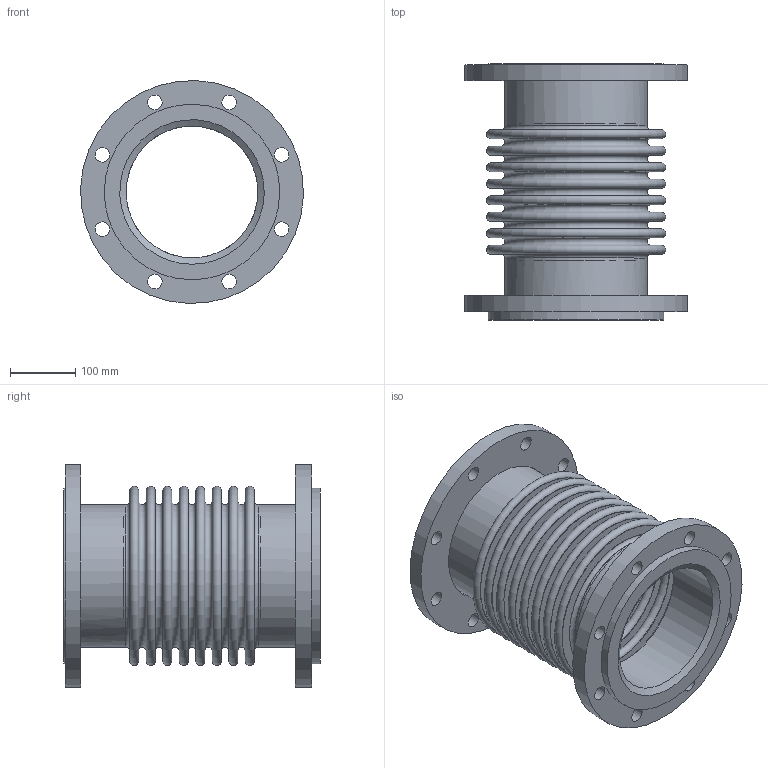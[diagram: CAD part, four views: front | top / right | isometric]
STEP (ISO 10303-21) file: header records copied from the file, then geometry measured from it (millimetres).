
FILE_DESCRIPTION(/* description */ (''),/* implementation_level */ '2;1');
FILE_NAME(/* name */ 'C:\001_Work\Designs\EFL50-ASA150LB\EFL50-8x15.50 (ASA150LB).stp',/* time_stamp */ '2016-05-10T09:07:16-04:00',/* author */ ('rramoutar'),/* organization */ ('Mason Industries Inc.'),/* preprocessor_version */ 'ST-DEVELOPER v15.6',/* originating_system */ 'Autodesk Inventor 2015',/* authorisation */ '');
FILE_SCHEMA (('CONFIG_CONTROL_DESIGN'));
Length unit declared in the file: inch
Products named in the file (1): EFL50-8x15.50
Bounding box: 342.57 x 393.7 x 342.57 mm (x, y, z)
Volume: 4166373.2 mm3; surface area: 1486524.2 mm2
Topology: 1 solids, 1 shells, 109 faces, 209 edges, 143 vertices
Faces by surface type: plane 43, torus 34, cylinder 29, cone 3
Full cylindrical faces by diameter (mm): 22.225 x16, 202.692 x2, 217.17 x2, 219.202 x2, 222.25 x3, 269.875 x2, 342.9 x2
Entity records: 2589 total; most frequent: DIRECTION 470, CARTESIAN_POINT 360, EDGE_LOOP 250, ORIENTED_EDGE 250, AXIS2_PLACEMENT_3D 235, FACE_BOUND 141, CIRCLE 125, VERTEX_POINT 125
